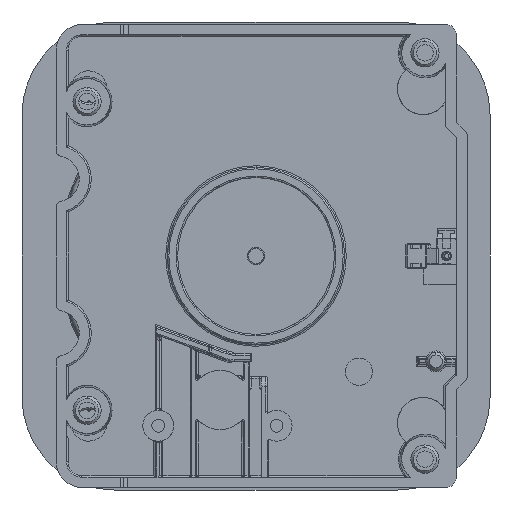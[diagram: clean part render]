
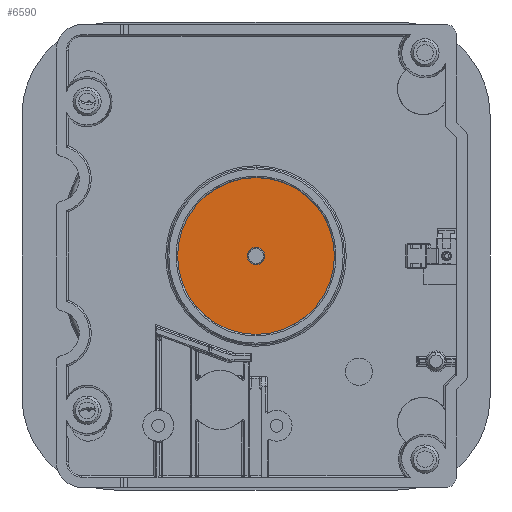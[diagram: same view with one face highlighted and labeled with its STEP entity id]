
A CAD part, front view. The second image highlights one B-rep face of the part: STEP entity #6590.
In plain terms, the highlighted planar face has unit normal (0, -1, 0).
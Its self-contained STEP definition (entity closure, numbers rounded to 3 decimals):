
#3149=FACE_BOUND('',#13731,.T.);
#3150=FACE_BOUND('',#13732,.T.);
#3884=CIRCLE('',#52708,24.3);
#3888=CIRCLE('',#52713,24.3);
#4123=CIRCLE('',#53177,1.7);
#4124=CIRCLE('',#53179,1.7);
#6590=ADVANCED_FACE('',(#3149,#3150),#9036,.F.);
#9036=PLANE('',#53181);
#13731=EDGE_LOOP('',(#20002,#20003));
#13732=EDGE_LOOP('',(#20004,#20005));
#20002=ORIENTED_EDGE('',*,*,#37067,.T.);
#20003=ORIENTED_EDGE('',*,*,#37071,.T.);
#20004=ORIENTED_EDGE('',*,*,#37640,.F.);
#20005=ORIENTED_EDGE('',*,*,#37638,.F.);
#31907=VERTEX_POINT('',#77012);
#31908=VERTEX_POINT('',#77014);
#32252=VERTEX_POINT('',#79803);
#32253=VERTEX_POINT('',#79805);
#37067=EDGE_CURVE('',#31908,#31907,#3884,.T.);
#37071=EDGE_CURVE('',#31907,#31908,#3888,.T.);
#37638=EDGE_CURVE('',#32252,#32253,#4123,.T.);
#37640=EDGE_CURVE('',#32253,#32252,#4124,.T.);
#52708=AXIS2_PLACEMENT_3D('',#77013,#59817,#59818);
#52713=AXIS2_PLACEMENT_3D('',#77020,#59827,#59828);
#53177=AXIS2_PLACEMENT_3D('',#79804,#60971,#60972);
#53179=AXIS2_PLACEMENT_3D('',#79808,#60976,#60977);
#53181=AXIS2_PLACEMENT_3D('',#79810,#60980,#60981);
#59817=DIRECTION('',(0.,-1.,0.));
#59818=DIRECTION('',(-1.,0.,0.));
#59827=DIRECTION('',(0.,-1.,0.));
#59828=DIRECTION('',(1.,0.,0.));
#60971=DIRECTION('',(0.,-1.,0.));
#60972=DIRECTION('',(-0.016,0.,1.));
#60976=DIRECTION('',(0.,-1.,0.));
#60977=DIRECTION('',(-0.016,0.,1.));
#60980=DIRECTION('',(0.,1.,0.));
#60981=DIRECTION('',(-0.016,0.,1.));
#77012=CARTESIAN_POINT('',(24.3,34.8,0.));
#77013=CARTESIAN_POINT('',(0.,34.8,0.));
#77014=CARTESIAN_POINT('',(-24.3,34.8,0.));
#77020=CARTESIAN_POINT('',(0.,34.8,0.));
#79803=CARTESIAN_POINT('',(1.7,34.8,0.028));
#79804=CARTESIAN_POINT('',(0.,34.8,0.));
#79805=CARTESIAN_POINT('',(-1.7,34.8,-0.028));
#79808=CARTESIAN_POINT('',(0.,34.8,0.));
#79810=CARTESIAN_POINT('',(0.,34.8,0.));
